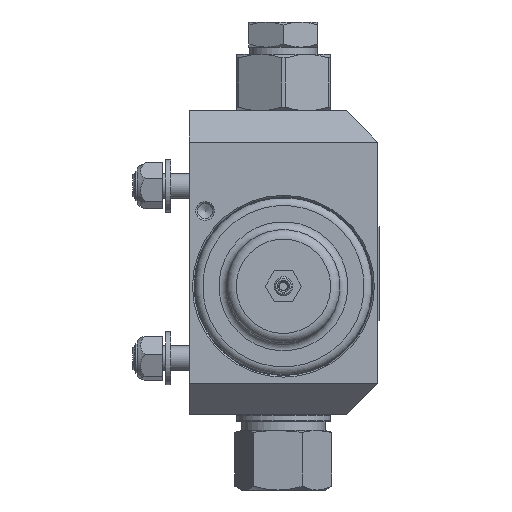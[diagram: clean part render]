
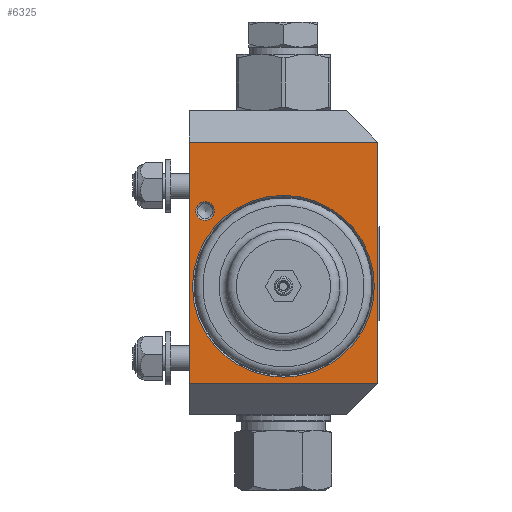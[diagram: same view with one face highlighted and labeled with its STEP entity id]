
A CAD part, left-side view. The second image highlights one B-rep face of the part: STEP entity #6325.
In plain terms, the highlighted planar face has unit normal (-1, 0, 0).
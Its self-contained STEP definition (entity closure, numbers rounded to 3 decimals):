
#614=LINE('',#15267,#862);
#628=LINE('',#15295,#876);
#629=LINE('',#15363,#877);
#635=LINE('',#15373,#883);
#862=VECTOR('',#9603,1000.);
#876=VECTOR('',#9625,1000.);
#877=VECTOR('',#9714,1000.);
#883=VECTOR('',#9724,1000.);
#2276=ORIENTED_EDGE('',*,*,#3280,.F.);
#2277=ORIENTED_EDGE('',*,*,#3234,.T.);
#2278=ORIENTED_EDGE('',*,*,#3274,.T.);
#2279=ORIENTED_EDGE('',*,*,#3248,.T.);
#2280=ORIENTED_EDGE('',*,*,#3263,.T.);
#2281=ORIENTED_EDGE('',*,*,#3180,.T.);
#3180=EDGE_CURVE('',#3825,#3825,#4232,.T.);
#3234=EDGE_CURVE('',#3866,#3864,#614,.T.);
#3248=EDGE_CURVE('',#3874,#3872,#628,.T.);
#3263=EDGE_CURVE('',#3889,#3889,#4252,.T.);
#3274=EDGE_CURVE('',#3864,#3874,#629,.T.);
#3280=EDGE_CURVE('',#3866,#3872,#635,.T.);
#3825=VERTEX_POINT('',#13704);
#3864=VERTEX_POINT('',#15265);
#3866=VERTEX_POINT('',#15268);
#3872=VERTEX_POINT('',#15286);
#3874=VERTEX_POINT('',#15292);
#3889=VERTEX_POINT('',#15336);
#4232=CIRCLE('',#8112,2.959);
#4252=CIRCLE('',#8161,29.);
#4873=EDGE_LOOP('',(#2276,#2277,#2278,#2279));
#4874=EDGE_LOOP('',(#2280));
#4875=EDGE_LOOP('',(#2281));
#5592=FACE_BOUND('',#4873,.T.);
#5593=FACE_BOUND('',#4874,.T.);
#5594=FACE_BOUND('',#4875,.T.);
#5908=PLANE('',#8180);
#6325=ADVANCED_FACE('',(#5592,#5593,#5594),#5908,.F.);
#8112=AXIS2_PLACEMENT_3D('',#13703,#9548,#9549);
#8161=AXIS2_PLACEMENT_3D('',#15335,#9678,#9679);
#8180=AXIS2_PLACEMENT_3D('',#15372,#9722,#9723);
#9548=DIRECTION('',(1.,0.,0.));
#9549=DIRECTION('',(0.,0.,-1.));
#9603=DIRECTION('',(0.,1.,0.));
#9625=DIRECTION('',(0.,-1.,0.));
#9678=DIRECTION('',(1.,0.,0.));
#9679=DIRECTION('',(0.,0.,-1.));
#9714=DIRECTION('',(0.,0.,-1.));
#9722=DIRECTION('',(1.,0.,0.));
#9723=DIRECTION('',(0.,1.,0.));
#9724=DIRECTION('',(0.,0.,-1.));
#13703=CARTESIAN_POINT('',(42.826,55.,88.));
#13704=CARTESIAN_POINT('',(42.826,55.,85.042));
#15265=CARTESIAN_POINT('',(42.826,60.,110.));
#15267=CARTESIAN_POINT('',(42.826,60.,110.));
#15268=CARTESIAN_POINT('',(42.826,0.,110.));
#15286=CARTESIAN_POINT('',(42.826,0.,33.));
#15292=CARTESIAN_POINT('',(42.826,60.,33.));
#15295=CARTESIAN_POINT('',(42.826,60.,33.));
#15335=CARTESIAN_POINT('',(42.826,30.,64.));
#15336=CARTESIAN_POINT('',(42.826,30.,35.));
#15363=CARTESIAN_POINT('',(42.826,60.,120.));
#15372=CARTESIAN_POINT('',(42.826,60.,120.));
#15373=CARTESIAN_POINT('',(42.826,0.,120.));
